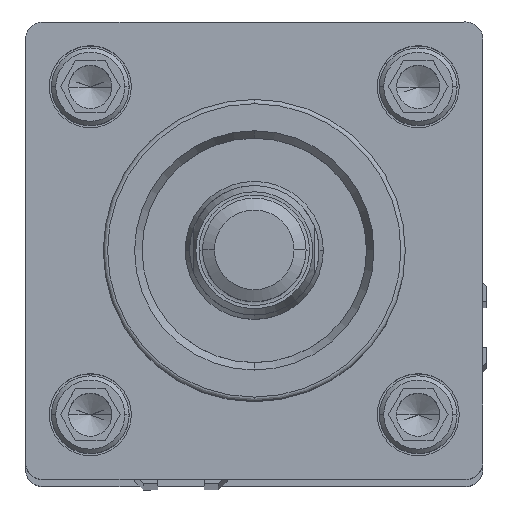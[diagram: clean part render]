
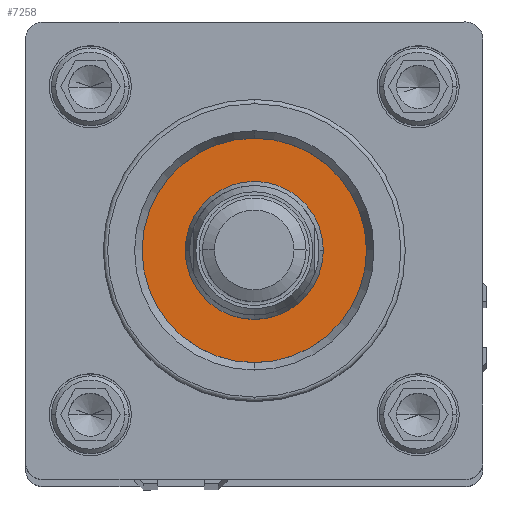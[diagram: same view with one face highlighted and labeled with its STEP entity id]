
A CAD part, top view. The second image highlights one B-rep face of the part: STEP entity #7258.
In plain terms, the highlighted planar face has unit normal (0, 0, 1).
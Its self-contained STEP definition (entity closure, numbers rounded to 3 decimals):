
#88 = EDGE_LOOP ( 'NONE', ( #1747, #2913 ) ) ;
#129 = AXIS2_PLACEMENT_3D ( 'NONE', #10810, #6816, #4719 ) ;
#386 = DIRECTION ( 'NONE',  ( 0., 0., 1. ) ) ;
#688 = CIRCLE ( 'NONE', #5017, 13. ) ;
#1155 = DIRECTION ( 'NONE',  ( 0., 0., -1. ) ) ;
#1747 = ORIENTED_EDGE ( 'NONE', *, *, #2451, .F. ) ;
#1808 = CIRCLE ( 'NONE', #6136, 13. ) ;
#2129 = ORIENTED_EDGE ( 'NONE', *, *, #7958, .F. ) ;
#2164 = DIRECTION ( 'NONE',  ( 0., 1., 0. ) ) ;
#2380 = EDGE_CURVE ( 'NONE', #8501, #5914, #688, .T. ) ;
#2396 = FACE_BOUND ( 'NONE', #3884, .T. ) ;
#2451 = EDGE_CURVE ( 'NONE', #5914, #8501, #1808, .T. ) ;
#2913 = ORIENTED_EDGE ( 'NONE', *, *, #2380, .F. ) ;
#3626 = ORIENTED_EDGE ( 'NONE', *, *, #7065, .F. ) ;
#3871 = CARTESIAN_POINT ( 'NONE',  ( 0., -8., 105.4 ) ) ;
#3879 = AXIS2_PLACEMENT_3D ( 'NONE', #12487, #386, #7538 ) ;
#3884 = EDGE_LOOP ( 'NONE', ( #3626, #2129 ) ) ;
#4208 = CARTESIAN_POINT ( 'NONE',  ( 0., 0., 105.4 ) ) ;
#4719 = DIRECTION ( 'NONE',  ( 0., 1., 0. ) ) ;
#5017 = AXIS2_PLACEMENT_3D ( 'NONE', #11385, #6234, #7350 ) ;
#5217 = CARTESIAN_POINT ( 'NONE',  ( 0., 0., 105.4 ) ) ;
#5318 = CARTESIAN_POINT ( 'NONE',  ( 0., -13., 105.4 ) ) ;
#5589 = FACE_OUTER_BOUND ( 'NONE', #88, .T. ) ;
#5914 = VERTEX_POINT ( 'NONE', #10295 ) ;
#6136 = AXIS2_PLACEMENT_3D ( 'NONE', #5217, #1155, #2164 ) ;
#6234 = DIRECTION ( 'NONE',  ( 0., 0., -1. ) ) ;
#6513 = CIRCLE ( 'NONE', #12160, 8. ) ;
#6816 = DIRECTION ( 'NONE',  ( 0., 0., -1. ) ) ;
#7065 = EDGE_CURVE ( 'NONE', #12015, #7090, #13051, .T. ) ;
#7090 = VERTEX_POINT ( 'NONE', #10434 ) ;
#7258 = ADVANCED_FACE ( 'NONE', ( #2396, #5589 ), #10894, .F. ) ;
#7350 = DIRECTION ( 'NONE',  ( 0., 1., 0. ) ) ;
#7538 = DIRECTION ( 'NONE',  ( 0., -1., 0. ) ) ;
#7958 = EDGE_CURVE ( 'NONE', #7090, #12015, #6513, .T. ) ;
#8501 = VERTEX_POINT ( 'NONE', #5318 ) ;
#10295 = CARTESIAN_POINT ( 'NONE',  ( 0., 13., 105.4 ) ) ;
#10434 = CARTESIAN_POINT ( 'NONE',  ( 0., 8., 105.4 ) ) ;
#10810 = CARTESIAN_POINT ( 'NONE',  ( 0., 0., 105.4 ) ) ;
#10894 = PLANE ( 'NONE',  #129 ) ;
#11323 = DIRECTION ( 'NONE',  ( 0., 0., 1. ) ) ;
#11385 = CARTESIAN_POINT ( 'NONE',  ( 0., 0., 105.4 ) ) ;
#12015 = VERTEX_POINT ( 'NONE', #3871 ) ;
#12160 = AXIS2_PLACEMENT_3D ( 'NONE', #4208, #11323, #12412 ) ;
#12412 = DIRECTION ( 'NONE',  ( 0., -1., 0. ) ) ;
#12487 = CARTESIAN_POINT ( 'NONE',  ( 0., 0., 105.4 ) ) ;
#13051 = CIRCLE ( 'NONE', #3879, 8. ) ;
